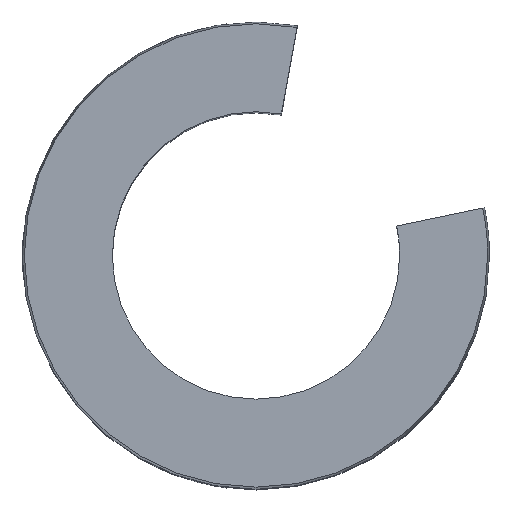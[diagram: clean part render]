
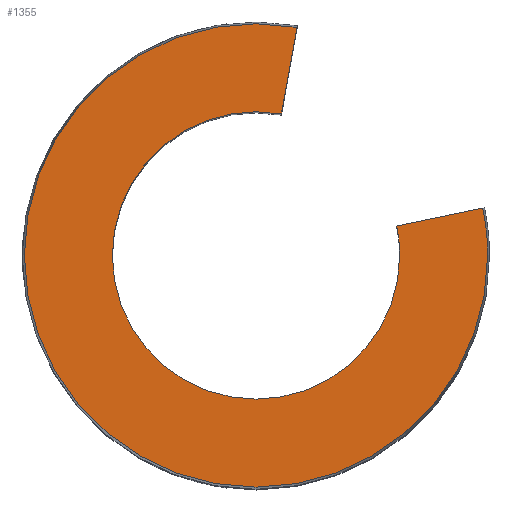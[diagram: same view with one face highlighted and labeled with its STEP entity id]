
A CAD part, top view. The second image highlights one B-rep face of the part: STEP entity #1355.
In plain terms, the highlighted planar face has unit normal (0, 0, 1).
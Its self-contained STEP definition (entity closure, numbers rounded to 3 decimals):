
#51=CARTESIAN_POINT('',(5.201,1.811,36.0));
#52=VERTEX_POINT('',#51);
#59=CARTESIAN_POINT('',(5.032,3.447,36.0));
#60=VERTEX_POINT('',#59);
#61=CARTESIAN_POINT('',(-2.799,1.811,36.0));
#62=DIRECTION('',(0.0,0.0,-1.0));
#63=DIRECTION('',(-1.0,0.0,0.0));
#64=AXIS2_PLACEMENT_3D('',#61,#62,#63);
#65=CIRCLE('',#64,8.0);
#66=EDGE_CURVE('',#60,#52,#65,.T.);
#91=CARTESIAN_POINT('',(-10.799,1.811,36.0));
#92=VERTEX_POINT('',#91);
#101=CARTESIAN_POINT('',(-2.799,1.811,36.0));
#102=DIRECTION('',(0.0,0.0,-1.0));
#103=DIRECTION('',(-1.0,0.0,0.0));
#104=AXIS2_PLACEMENT_3D('',#101,#102,#103);
#105=CIRCLE('',#104,8.0);
#106=EDGE_CURVE('',#52,#92,#105,.T.);
#556=CARTESIAN_POINT('',(10.101,1.811,36.0));
#557=VERTEX_POINT('',#556);
#565=CARTESIAN_POINT('',(9.828,4.449,36.0));
#566=VERTEX_POINT('',#565);
#573=CARTESIAN_POINT('',(-2.799,1.811,36.0));
#574=DIRECTION('',(0.0,0.0,-1.0));
#575=DIRECTION('',(-1.0,0.0,0.0));
#576=AXIS2_PLACEMENT_3D('',#573,#574,#575);
#577=CIRCLE('',#576,12.9);
#578=EDGE_CURVE('',#566,#557,#577,.T.);
#588=CARTESIAN_POINT('',(-15.699,1.811,36.0));
#589=VERTEX_POINT('',#588);
#596=CARTESIAN_POINT('',(-0.515,14.507,36.0));
#597=VERTEX_POINT('',#596);
#598=CARTESIAN_POINT('',(-2.799,1.811,36.0));
#599=DIRECTION('',(0.0,0.0,-1.0));
#600=DIRECTION('',(-1.0,0.0,0.0));
#601=AXIS2_PLACEMENT_3D('',#598,#599,#600);
#602=CIRCLE('',#601,12.9);
#603=EDGE_CURVE('',#589,#597,#602,.T.);
#733=CARTESIAN_POINT('',(-1.382,9.685,36.0));
#734=VERTEX_POINT('',#733);
#735=CARTESIAN_POINT('',(-1.382,9.685,36.0));
#736=DIRECTION('',(0.177,0.984,0.0));
#737=VECTOR('',#736,4.9);
#738=LINE('',#735,#737);
#739=EDGE_CURVE('',#734,#597,#738,.T.);
#854=CARTESIAN_POINT('',(9.828,4.449,36.0));
#855=DIRECTION('',(-0.979,-0.204,0.0));
#856=VECTOR('',#855,4.9);
#857=LINE('',#854,#856);
#858=EDGE_CURVE('',#566,#60,#857,.T.);
#904=CARTESIAN_POINT('',(-2.799,1.811,36.0));
#905=DIRECTION('',(0.0,0.0,-1.0));
#906=DIRECTION('',(-1.0,0.0,0.0));
#907=AXIS2_PLACEMENT_3D('',#904,#905,#906);
#908=CIRCLE('',#907,12.9);
#909=EDGE_CURVE('',#557,#589,#908,.T.);
#1334=CARTESIAN_POINT('',(-2.799,1.811,36.0));
#1335=DIRECTION('',(0.0,0.0,-1.0));
#1336=DIRECTION('',(-1.0,0.0,0.0));
#1337=AXIS2_PLACEMENT_3D('',#1334,#1335,#1336);
#1338=PLANE('',#1337);
#1339=ORIENTED_EDGE('',*,*,#739,.T.);
#1340=ORIENTED_EDGE('',*,*,#603,.F.);
#1341=ORIENTED_EDGE('',*,*,#909,.F.);
#1342=ORIENTED_EDGE('',*,*,#578,.F.);
#1343=ORIENTED_EDGE('',*,*,#858,.T.);
#1344=ORIENTED_EDGE('',*,*,#66,.T.);
#1345=ORIENTED_EDGE('',*,*,#106,.T.);
#1346=CARTESIAN_POINT('',(-2.799,1.811,36.0));
#1347=DIRECTION('',(0.0,0.0,-1.0));
#1348=DIRECTION('',(-1.0,0.0,0.0));
#1349=AXIS2_PLACEMENT_3D('',#1346,#1347,#1348);
#1350=CIRCLE('',#1349,8.0);
#1351=EDGE_CURVE('',#92,#734,#1350,.T.);
#1352=ORIENTED_EDGE('',*,*,#1351,.T.);
#1353=EDGE_LOOP('',(#1339,#1340,#1341,#1342,#1343,#1344,#1345,#1352));
#1354=FACE_OUTER_BOUND('',#1353,.T.);
#1355=ADVANCED_FACE('',(#1354),#1338,.F.);
